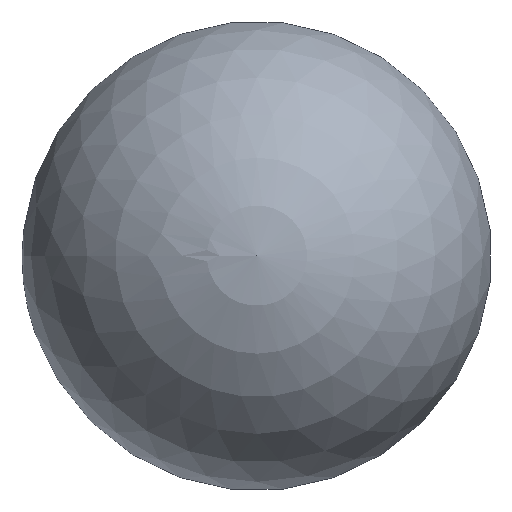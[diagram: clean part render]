
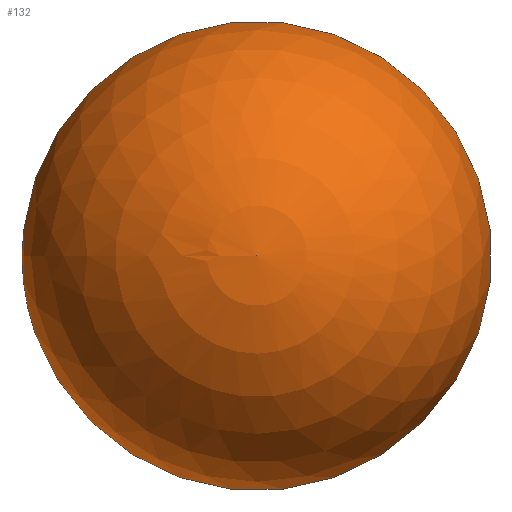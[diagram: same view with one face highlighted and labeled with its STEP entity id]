
A CAD part, top view. The second image highlights one B-rep face of the part: STEP entity #132.
In plain terms, the highlighted spherical face has radius 135 mm.
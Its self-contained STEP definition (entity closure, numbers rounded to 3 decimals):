
#17=SPHERICAL_SURFACE('',#151,135.);
#19=B_SPLINE_CURVE_WITH_KNOTS('',3,(#236,#237,#238,#239,#240,#241,#242,
#243,#244,#245,#246,#247,#248,#249,#250,#251,#252,#253,#254),
 .UNSPECIFIED.,.F.,.F.,(4,2,2,2,3,2,2,2,4),(-1.726,-1.603,
-1.069,-0.534,0.,0.525,1.05,
1.575,1.701),.UNSPECIFIED.);
#27=FACE_OUTER_BOUND('',#35,.T.);
#35=EDGE_LOOP('',(#113,#114,#115,#116,#117,#118,#119,#120,#121));
#45=CIRCLE('',#137,135.);
#47=CIRCLE('',#140,129.394);
#49=CIRCLE('',#144,134.888);
#53=CIRCLE('',#150,94.5);
#54=CIRCLE('',#152,135.);
#55=CIRCLE('',#153,135.);
#58=VERTEX_POINT('',#203);
#59=VERTEX_POINT('',#205);
#61=VERTEX_POINT('',#211);
#63=VERTEX_POINT('',#235);
#66=VERTEX_POINT('',#266);
#67=VERTEX_POINT('',#270);
#70=EDGE_CURVE('',#59,#58,#45,.T.);
#73=EDGE_CURVE('',#61,#59,#47,.T.);
#76=EDGE_CURVE('',#63,#61,#19,.T.);
#79=EDGE_CURVE('',#58,#63,#49,.T.);
#83=EDGE_CURVE('',#66,#66,#53,.T.);
#84=EDGE_CURVE('',#66,#59,#54,.T.);
#85=EDGE_CURVE('',#58,#67,#55,.T.);
#113=ORIENTED_EDGE('',*,*,#83,.T.);
#114=ORIENTED_EDGE('',*,*,#84,.T.);
#115=ORIENTED_EDGE('',*,*,#70,.T.);
#116=ORIENTED_EDGE('',*,*,#85,.T.);
#117=ORIENTED_EDGE('',*,*,#85,.F.);
#118=ORIENTED_EDGE('',*,*,#79,.T.);
#119=ORIENTED_EDGE('',*,*,#76,.T.);
#120=ORIENTED_EDGE('',*,*,#73,.T.);
#121=ORIENTED_EDGE('',*,*,#84,.F.);
#132=ADVANCED_FACE('',(#27),#17,.T.);
#137=AXIS2_PLACEMENT_3D('',#206,#161,#162);
#140=AXIS2_PLACEMENT_3D('',#212,#168,#169);
#144=AXIS2_PLACEMENT_3D('',#258,#178,#179);
#150=AXIS2_PLACEMENT_3D('',#267,#190,#191);
#151=AXIS2_PLACEMENT_3D('',#268,#192,#193);
#152=AXIS2_PLACEMENT_3D('',#269,#194,#195);
#153=AXIS2_PLACEMENT_3D('',#271,#196,#197);
#161=DIRECTION('center_axis',(0.,1.,0.));
#162=DIRECTION('ref_axis',(0.,0.,-1.));
#168=DIRECTION('center_axis',(0.,0.,-1.));
#169=DIRECTION('ref_axis',(0.,-1.,0.));
#178=DIRECTION('center_axis',(0.,0.,1.));
#179=DIRECTION('ref_axis',(0.,1.,0.));
#190=DIRECTION('center_axis',(0.,0.,1.));
#191=DIRECTION('ref_axis',(1.,0.,0.));
#192=DIRECTION('center_axis',(0.,0.,
-1.));
#193=DIRECTION('ref_axis',(1.,0.,0.));
#194=DIRECTION('center_axis',(0.,1.,0.));
#195=DIRECTION('ref_axis',(-1.,0.,0.));
#196=DIRECTION('center_axis',(0.,1.,0.));
#197=DIRECTION('ref_axis',(-1.,0.,0.));
#203=CARTESIAN_POINT('',(-134.888,0.,-5.5));
#205=CARTESIAN_POINT('',(-129.394,0.,-38.5));
#206=CARTESIAN_POINT('Origin',(0.,0.,0.));
#211=CARTESIAN_POINT('',(-121.501,-44.5,-38.5));
#212=CARTESIAN_POINT('Origin',(0.,0.,-38.5));
#235=CARTESIAN_POINT('',(-127.336,-44.5,-5.5));
#236=CARTESIAN_POINT('Ctrl Pts',(-127.336,-44.5,-5.5));
#237=CARTESIAN_POINT('Ctrl Pts',(-127.235,-44.747,-5.833));
#238=CARTESIAN_POINT('Ctrl Pts',(-127.135,-44.987,-6.173));
#239=CARTESIAN_POINT('Ctrl Pts',(-126.595,-46.237,-8.027));
#240=CARTESIAN_POINT('Ctrl Pts',(-126.155,-47.118,-9.659));
#241=CARTESIAN_POINT('Ctrl Pts',(-125.308,-48.536,-13.068));
#242=CARTESIAN_POINT('Ctrl Pts',(-124.899,-49.074,-14.849));
#243=CARTESIAN_POINT('Ctrl Pts',(-124.139,-49.781,-18.438));
#244=CARTESIAN_POINT('Ctrl Pts',(-123.787,-49.95,-20.246));
#245=CARTESIAN_POINT('Ctrl Pts',(-123.475,-49.95,-22.));
#246=CARTESIAN_POINT('Ctrl Pts',(-123.167,-49.95,-23.723));
#247=CARTESIAN_POINT('Ctrl Pts',(-122.877,-49.787,-25.511));
#248=CARTESIAN_POINT('Ctrl Pts',(-122.363,-49.093,-29.077));
#249=CARTESIAN_POINT('Ctrl Pts',(-122.14,-48.562,-30.854));
#250=CARTESIAN_POINT('Ctrl Pts',(-121.781,-47.153,-34.27));
#251=CARTESIAN_POINT('Ctrl Pts',(-121.645,-46.274,-35.911));
#252=CARTESIAN_POINT('Ctrl Pts',(-121.535,-45.011,-37.794));
#253=CARTESIAN_POINT('Ctrl Pts',(-121.517,-44.759,-38.151));
#254=CARTESIAN_POINT('Ctrl Pts',(-121.501,-44.5,-38.5));
#258=CARTESIAN_POINT('Origin',(0.,0.,-5.5));
#266=CARTESIAN_POINT('',(-94.5,0.,-96.409));
#267=CARTESIAN_POINT('Origin',(0.,0.,-96.409));
#268=CARTESIAN_POINT('Origin',(0.,0.,0.));
#269=CARTESIAN_POINT('Origin',(0.,0.,0.));
#270=CARTESIAN_POINT('',(0.,0.,135.));
#271=CARTESIAN_POINT('Origin',(0.,0.,0.));
